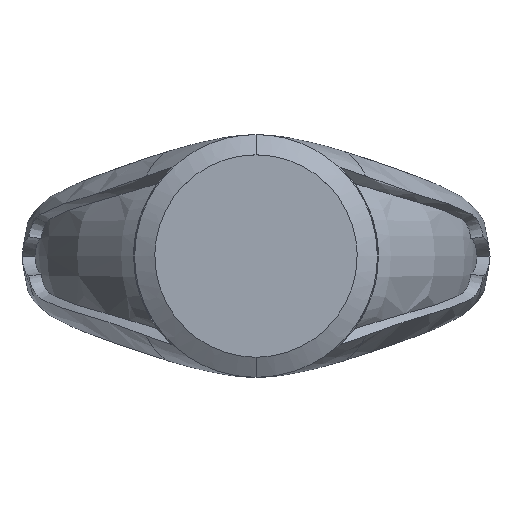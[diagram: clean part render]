
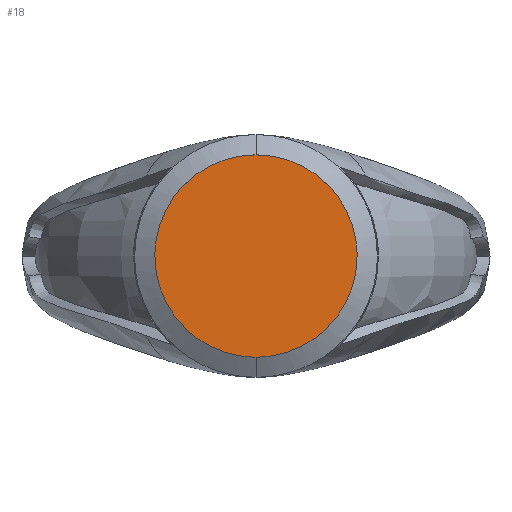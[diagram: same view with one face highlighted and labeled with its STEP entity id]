
A CAD part, top view. The second image highlights one B-rep face of the part: STEP entity #18.
In plain terms, the highlighted planar face has unit normal (0, 0, 1).
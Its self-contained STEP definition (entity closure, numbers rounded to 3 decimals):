
#18=ADVANCED_FACE('',(#86),#1058,.T.);
#86=FACE_OUTER_BOUND('',#154,.T.);
#154=EDGE_LOOP('',(#241,#242,#243,#244));
#241=ORIENTED_EDGE('',*,*,#646,.F.);
#242=ORIENTED_EDGE('',*,*,#669,.F.);
#243=ORIENTED_EDGE('',*,*,#622,.T.);
#244=ORIENTED_EDGE('',*,*,#595,.T.);
#595=EDGE_CURVE('',#944,#943,#749,.T.);
#622=EDGE_CURVE('',#961,#944,#752,.T.);
#646=EDGE_CURVE('',#976,#943,#755,.T.);
#669=EDGE_CURVE('',#961,#976,#758,.T.);
#749=(
BOUNDED_CURVE()
B_SPLINE_CURVE(2,(#20274,#20275,#20276),.UNSPECIFIED.,.F.,.F.)
B_SPLINE_CURVE_WITH_KNOTS((3,3),(-37.699,-28.274),
 .UNSPECIFIED.)
CURVE()
GEOMETRIC_REPRESENTATION_ITEM()
RATIONAL_B_SPLINE_CURVE((1.,0.707,1.))
REPRESENTATION_ITEM('')
);
#752=(
BOUNDED_CURVE()
B_SPLINE_CURVE(2,(#20662,#20663,#20664),.UNSPECIFIED.,.F.,.F.)
B_SPLINE_CURVE_WITH_KNOTS((3,3),(-9.425,0.),.UNSPECIFIED.)
CURVE()
GEOMETRIC_REPRESENTATION_ITEM()
RATIONAL_B_SPLINE_CURVE((1.,0.707,1.))
REPRESENTATION_ITEM('')
);
#755=(
BOUNDED_CURVE()
B_SPLINE_CURVE(2,(#21380,#21381,#21382),.UNSPECIFIED.,.F.,.F.)
B_SPLINE_CURVE_WITH_KNOTS((3,3),(-37.699,-28.274),
 .UNSPECIFIED.)
CURVE()
GEOMETRIC_REPRESENTATION_ITEM()
RATIONAL_B_SPLINE_CURVE((1.,0.707,1.))
REPRESENTATION_ITEM('')
);
#758=(
BOUNDED_CURVE()
B_SPLINE_CURVE(2,(#21756,#21757,#21758),.UNSPECIFIED.,.F.,.F.)
B_SPLINE_CURVE_WITH_KNOTS((3,3),(-9.425,0.),.UNSPECIFIED.)
CURVE()
GEOMETRIC_REPRESENTATION_ITEM()
RATIONAL_B_SPLINE_CURVE((1.,0.707,1.))
REPRESENTATION_ITEM('')
);
#943=VERTEX_POINT('',#19551);
#944=VERTEX_POINT('',#19552);
#961=VERTEX_POINT('',#19569);
#976=VERTEX_POINT('',#19584);
#1058=PLANE('',#1120);
#1120=AXIS2_PLACEMENT_3D('',#1610,#1125,$);
#1125=DIRECTION('',(0.,0.,1.));
#1610=CARTESIAN_POINT('',(-5.1,5.1,12.082));
#19551=CARTESIAN_POINT('',(0.,-5.,12.082));
#19552=CARTESIAN_POINT('',(-5.,0.,12.082));
#19569=CARTESIAN_POINT('',(0.,5.,12.082));
#19584=CARTESIAN_POINT('',(5.,0.,12.082));
#20274=CARTESIAN_POINT('',(-5.,0.,12.082));
#20275=CARTESIAN_POINT('',(-5.,-5.,12.082));
#20276=CARTESIAN_POINT('',(0.,-5.,12.082));
#20662=CARTESIAN_POINT('',(0.,5.,12.082));
#20663=CARTESIAN_POINT('',(-5.,5.,12.082));
#20664=CARTESIAN_POINT('',(-5.,0.,12.082));
#21380=CARTESIAN_POINT('',(5.,0.,12.082));
#21381=CARTESIAN_POINT('',(5.,-5.,12.082));
#21382=CARTESIAN_POINT('',(0.,-5.,12.082));
#21756=CARTESIAN_POINT('',(0.,5.,12.082));
#21757=CARTESIAN_POINT('',(5.,5.,12.082));
#21758=CARTESIAN_POINT('',(5.,0.,12.082));
